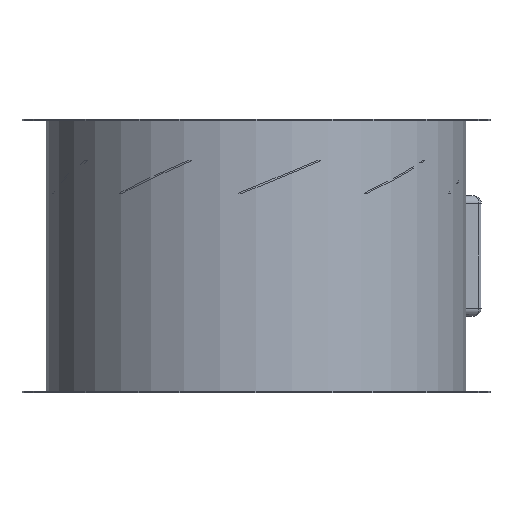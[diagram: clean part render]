
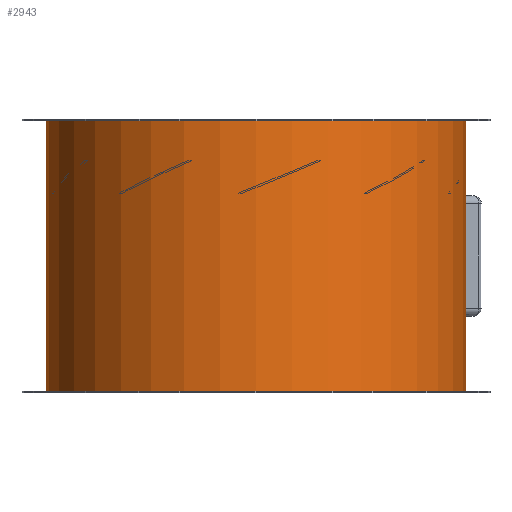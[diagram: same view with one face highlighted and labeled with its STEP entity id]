
A CAD part, front view. The second image highlights one B-rep face of the part: STEP entity #2943.
In plain terms, the highlighted cylindrical face has radius 253.5 mm (diameter 507 mm), a full revolution.
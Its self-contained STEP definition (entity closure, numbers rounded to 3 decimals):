
#64=FACE_BOUND('',#1049,.T.);
#65=FACE_BOUND('',#1050,.T.);
#370=B_SPLINE_CURVE_WITH_KNOTS('',3,(#4038,#4039,#4040,#4041,#4042,#4043,
#4044,#4045,#4046,#4047),.UNSPECIFIED.,.F.,.F.,(4,2,2,2,4),(-1.522,
-1.137,-0.753,-0.377,0.),
 .UNSPECIFIED.);
#371=B_SPLINE_CURVE_WITH_KNOTS('',3,(#4073,#4074,#4075,#4076,#4077,#4078,
#4079,#4080,#4081,#4082),.UNSPECIFIED.,.F.,.F.,(4,2,2,2,4),(0.,0.377,
0.753,1.137,1.522),.UNSPECIFIED.);
#372=B_SPLINE_CURVE_WITH_KNOTS('',3,(#4088,#4089,#4090,#4091,#4092,#4093,
#4094,#4095,#4096,#4097),.UNSPECIFIED.,.F.,.F.,(4,2,2,2,4),(1.517,
1.901,2.285,2.662,3.038),
 .UNSPECIFIED.);
#373=B_SPLINE_CURVE_WITH_KNOTS('',3,(#4106,#4107,#4108,#4109,#4110,#4111,
#4112,#4113,#4114,#4115),.UNSPECIFIED.,.F.,.F.,(4,2,2,2,4),(3.038,
3.415,3.791,4.176,4.56),
 .UNSPECIFIED.);
#450=LINE('',#4121,#576);
#491=LINE('',#4585,#617);
#576=VECTOR('',#3341,10.);
#617=VECTOR('',#3468,10.);
#732=CYLINDRICAL_SURFACE('',#3253,253.5);
#873=FACE_OUTER_BOUND('',#1048,.T.);
#1048=EDGE_LOOP('',(#2690));
#1049=EDGE_LOOP('',(#2691,#2692,#2693,#2694,#2695,#2696,#2697,#2698));
#1050=EDGE_LOOP('',(#2699));
#1135=CIRCLE('',#2984,253.5);
#1166=CIRCLE('',#3030,253.5);
#1264=CIRCLE('',#3254,253.5);
#1265=CIRCLE('',#3255,253.5);
#1278=VERTEX_POINT('',#4036);
#1279=VERTEX_POINT('',#4037);
#1286=VERTEX_POINT('',#4071);
#1287=VERTEX_POINT('',#4072);
#1288=VERTEX_POINT('',#4086);
#1289=VERTEX_POINT('',#4087);
#1290=VERTEX_POINT('',#4104);
#1291=VERTEX_POINT('',#4105);
#1561=VERTEX_POINT('',#5836);
#1562=VERTEX_POINT('',#5838);
#1577=EDGE_CURVE('',#1278,#1279,#370,.F.);
#1590=EDGE_CURVE('',#1286,#1287,#371,.F.);
#1593=EDGE_CURVE('',#1288,#1289,#372,.F.);
#1598=EDGE_CURVE('',#1290,#1291,#373,.F.);
#1601=EDGE_CURVE('',#1286,#1279,#1135,.T.);
#1602=EDGE_CURVE('',#1278,#1291,#450,.T.);
#1693=EDGE_CURVE('',#1288,#1287,#491,.T.);
#1694=EDGE_CURVE('',#1290,#1289,#1166,.T.);
#1972=EDGE_CURVE('',#1561,#1561,#1264,.F.);
#1973=EDGE_CURVE('',#1562,#1562,#1265,.T.);
#2690=ORIENTED_EDGE('',*,*,#1972,.T.);
#2691=ORIENTED_EDGE('',*,*,#1601,.T.);
#2692=ORIENTED_EDGE('',*,*,#1577,.F.);
#2693=ORIENTED_EDGE('',*,*,#1602,.T.);
#2694=ORIENTED_EDGE('',*,*,#1598,.F.);
#2695=ORIENTED_EDGE('',*,*,#1694,.T.);
#2696=ORIENTED_EDGE('',*,*,#1593,.F.);
#2697=ORIENTED_EDGE('',*,*,#1693,.T.);
#2698=ORIENTED_EDGE('',*,*,#1590,.F.);
#2699=ORIENTED_EDGE('',*,*,#1973,.T.);
#2943=ADVANCED_FACE('',(#873,#64,#65),#732,.T.);
#2984=AXIS2_PLACEMENT_3D('',#4119,#3337,#3338);
#3030=AXIS2_PLACEMENT_3D('',#4587,#3471,#3472);
#3253=AXIS2_PLACEMENT_3D('',#5835,#3985,#3986);
#3254=AXIS2_PLACEMENT_3D('',#5837,#3987,#3988);
#3255=AXIS2_PLACEMENT_3D('',#5839,#3989,#3990);
#3337=DIRECTION('center_axis',(0.,0.,-1.));
#3338=DIRECTION('ref_axis',(-1.,0.,0.));
#3341=DIRECTION('',(0.,0.,1.));
#3468=DIRECTION('',(0.,0.,-1.));
#3471=DIRECTION('center_axis',(0.,0.,1.));
#3472=DIRECTION('ref_axis',(-1.,0.,0.));
#3985=DIRECTION('center_axis',(0.,0.,1.));
#3986=DIRECTION('ref_axis',(-1.,0.,0.));
#3987=DIRECTION('center_axis',(0.,0.,-1.));
#3988=DIRECTION('ref_axis',(-1.,0.,0.));
#3989=DIRECTION('center_axis',(0.,0.,-1.));
#3990=DIRECTION('ref_axis',(-1.,0.,0.));
#4036=CARTESIAN_POINT('',(213.873,136.091,-63.));
#4037=CARTESIAN_POINT('',(208.225,144.585,-73.));
#4038=CARTESIAN_POINT('Ctrl Pts',(208.225,144.585,-73.));
#4039=CARTESIAN_POINT('Ctrl Pts',(208.955,143.533,-73.));
#4040=CARTESIAN_POINT('Ctrl Pts',(209.726,142.404,-72.747));
#4041=CARTESIAN_POINT('Ctrl Pts',(211.131,140.312,-71.719));
#4042=CARTESIAN_POINT('Ctrl Pts',(211.766,139.35,-70.943));
#4043=CARTESIAN_POINT('Ctrl Pts',(212.753,137.838,-69.162));
#4044=CARTESIAN_POINT('Ctrl Pts',(213.175,137.182,-68.045));
#4045=CARTESIAN_POINT('Ctrl Pts',(213.735,136.308,-65.592));
#4046=CARTESIAN_POINT('Ctrl Pts',(213.873,136.091,-64.255));
#4047=CARTESIAN_POINT('Ctrl Pts',(213.873,136.091,-63.));
#4071=CARTESIAN_POINT('',(144.585,208.225,-73.));
#4072=CARTESIAN_POINT('',(136.091,213.873,-63.));
#4073=CARTESIAN_POINT('Ctrl Pts',(136.091,213.873,-63.));
#4074=CARTESIAN_POINT('Ctrl Pts',(136.091,213.873,-64.255));
#4075=CARTESIAN_POINT('Ctrl Pts',(136.308,213.735,-65.592));
#4076=CARTESIAN_POINT('Ctrl Pts',(137.182,213.175,-68.045));
#4077=CARTESIAN_POINT('Ctrl Pts',(137.838,212.753,-69.162));
#4078=CARTESIAN_POINT('Ctrl Pts',(139.35,211.766,-70.943));
#4079=CARTESIAN_POINT('Ctrl Pts',(140.312,211.131,-71.719));
#4080=CARTESIAN_POINT('Ctrl Pts',(142.404,209.726,-72.747));
#4081=CARTESIAN_POINT('Ctrl Pts',(143.533,208.955,-73.));
#4082=CARTESIAN_POINT('Ctrl Pts',(144.585,208.225,-73.));
#4086=CARTESIAN_POINT('',(136.091,213.873,63.));
#4087=CARTESIAN_POINT('',(144.585,208.225,73.));
#4088=CARTESIAN_POINT('Ctrl Pts',(144.585,208.225,73.));
#4089=CARTESIAN_POINT('Ctrl Pts',(143.533,208.955,73.));
#4090=CARTESIAN_POINT('Ctrl Pts',(142.404,209.726,72.747));
#4091=CARTESIAN_POINT('Ctrl Pts',(140.312,211.131,71.719));
#4092=CARTESIAN_POINT('Ctrl Pts',(139.35,211.766,70.943));
#4093=CARTESIAN_POINT('Ctrl Pts',(137.838,212.753,69.162));
#4094=CARTESIAN_POINT('Ctrl Pts',(137.182,213.175,68.045));
#4095=CARTESIAN_POINT('Ctrl Pts',(136.308,213.735,65.592));
#4096=CARTESIAN_POINT('Ctrl Pts',(136.091,213.873,64.255));
#4097=CARTESIAN_POINT('Ctrl Pts',(136.091,213.873,63.));
#4104=CARTESIAN_POINT('',(208.225,144.585,73.));
#4105=CARTESIAN_POINT('',(213.873,136.091,63.));
#4106=CARTESIAN_POINT('Ctrl Pts',(213.873,136.091,63.));
#4107=CARTESIAN_POINT('Ctrl Pts',(213.873,136.091,64.255));
#4108=CARTESIAN_POINT('Ctrl Pts',(213.735,136.308,65.592));
#4109=CARTESIAN_POINT('Ctrl Pts',(213.175,137.182,68.045));
#4110=CARTESIAN_POINT('Ctrl Pts',(212.753,137.838,69.162));
#4111=CARTESIAN_POINT('Ctrl Pts',(211.766,139.35,70.943));
#4112=CARTESIAN_POINT('Ctrl Pts',(211.131,140.312,71.719));
#4113=CARTESIAN_POINT('Ctrl Pts',(209.726,142.404,72.747));
#4114=CARTESIAN_POINT('Ctrl Pts',(208.955,143.533,73.));
#4115=CARTESIAN_POINT('Ctrl Pts',(208.225,144.585,73.));
#4119=CARTESIAN_POINT('Origin',(0.,0.,-73.));
#4121=CARTESIAN_POINT('',(213.873,136.091,0.));
#4585=CARTESIAN_POINT('',(136.091,213.873,0.));
#4587=CARTESIAN_POINT('Origin',(0.,0.,73.));
#5835=CARTESIAN_POINT('Origin',(0.,0.,0.));
#5836=CARTESIAN_POINT('',(253.5,0.,-163.5));
#5837=CARTESIAN_POINT('Origin',(0.,0.,-163.5));
#5838=CARTESIAN_POINT('',(253.5,0.,163.5));
#5839=CARTESIAN_POINT('Origin',(0.,0.,163.5));
